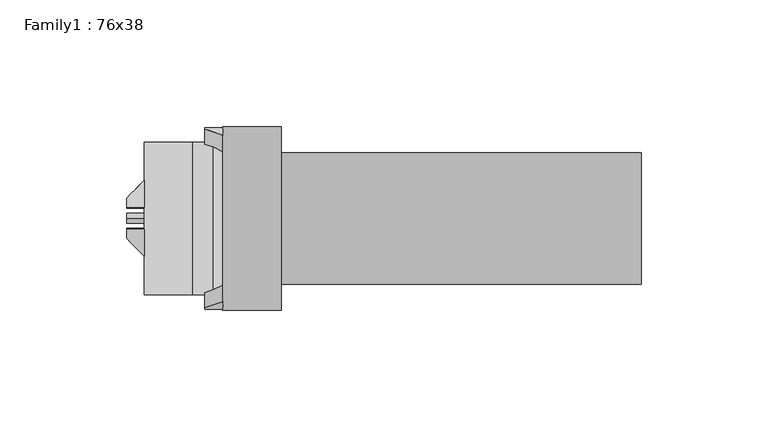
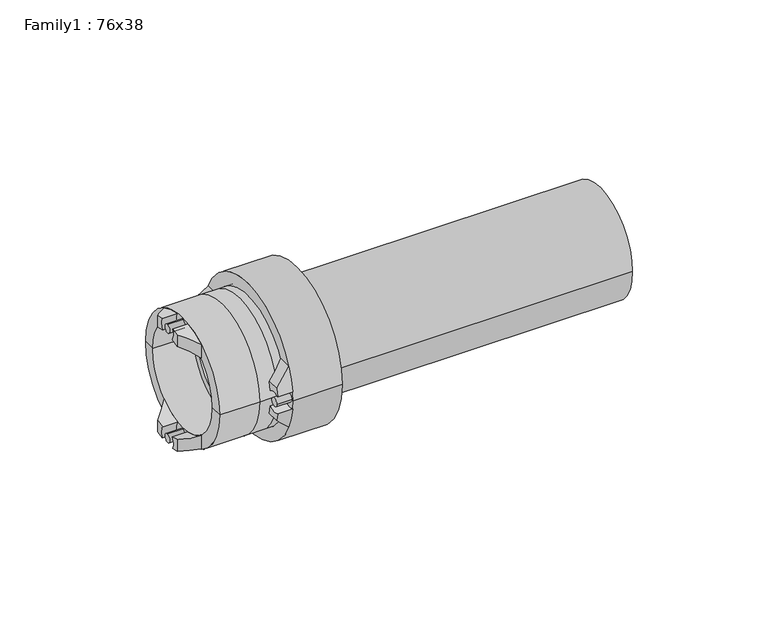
"""IFC4 building model written with IfcOpenShell, lengths in millimetres: proxy geometry, Family1 : 76x38."""

from ifc_helpers import new_model, si_unit, point, frame, frame_2d, origin, place, context, project, spatial, polyline, circle_curve, ellipse_curve, trimmed, segment, composite_curve, outline, extrude, source, transform, mapped, element, save
from ifc_brep_helpers import plane_surface, cylinder_surface, revolved_surface, advanced_brep


def family1_76x38_972b7e1c(model_context):
    return source(origin(), model_context, "Body", "SolidModel", [
        advanced_brep(
        [(-172.5, -30.1005263, 3.8834026), (-172.5, -35.9005263, 4.2396592), (-172.5, -35.2672497, 7.94), (-172.5, -29.2929838, 7.94), (-165.4, -32.8910702, 15.0), (-165.4, -35.9005263, 4.2396592), (-165.4, -30.1005263, 3.8834026), (-165.4, -26.3841335, 15.0)],
        [
            (0, 1, circle_curve(frame((-172.5, -33.25, 0.0), z_axis=(1.0, 0.0, 0.0), x_axis=(0.0, 1.0, 0.0)), 5.0)),
            (1, 2, circle_curve(frame((-172.5, 0.0, 0.0), z_axis=(-1.0, 0.0, 0.0), x_axis=(0.0, 1.0, 0.0)), 36.15)),
            (2, 3),
            (3, 0, circle_curve(frame((-172.5, 0.0, 0.0), z_axis=(1.0, 0.0, 0.0), x_axis=(0.0, 1.0, 0.0)), 30.35)),
            (4, 5, circle_curve(frame((-165.4, 0.0, 0.0), z_axis=(1.0, 0.0, 0.0), x_axis=(0.0, 1.0, 0.0)), 36.15)),
            (5, 6, circle_curve(frame((-165.4, -33.25, 0.0), z_axis=(-1.0, 0.0, 0.0), x_axis=(0.0, 1.0, 0.0)), 5.0)),
            (6, 7, circle_curve(frame((-165.4, 0.0, 0.0), z_axis=(-1.0, 0.0, 0.0), x_axis=(0.0, 1.0, 0.0)), 30.35)),
            (7, 4),
            (6, 0),
            (3, 7, ellipse_curve(frame((-180.4849858, 0.0, 0.0), z_axis=(-0.705106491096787, 0.0, 0.7091014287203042), x_axis=(0.7091014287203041, 0.0, 0.705106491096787)), 43.0431437, 30.35)),
            (4, 2, ellipse_curve(frame((-180.4849858, 0.0, 0.0), z_axis=(0.705106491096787, 0.0, -0.7091014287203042), x_axis=(-0.7091014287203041, 0.0, -0.705106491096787)), 51.2688515, 36.15)),
            (1, 5),
        ],
        [
            plane_surface(frame((-172.5, -32.8910702, 15.0), z_axis=(-1.0, 0.0, 0.0), x_axis=(0.0, 1.0, 0.0))),
            plane_surface(frame((-165.4, -32.8910702, 15.0), z_axis=(1.0, 0.0, 0.0), x_axis=(0.0, -1.0, 0.0))),
            revolved_surface(polyline([(-149.96303110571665, 30.35, 0.0), (-211.00694049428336, 30.35, 0.0)]), (-165.4, 0.0, 0.0), (1.0, 0.0, 0.0)),
            cylinder_surface(frame((-165.4, 0.0, 0.0), z_axis=(-1.0, 0.0, 0.0), x_axis=(0.0, 1.0, 0.0)), 36.15),
            revolved_surface(polyline([(-172.5, -28.25, 0.0), (-165.4, -28.25, 0.0)]), (-165.4, -33.25, 0.0), (-1.0, 0.0, 0.0)),
            plane_surface(frame((-165.4, 36.15, 15.0), z_axis=(-0.705106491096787, 0.0, 0.7091014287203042), x_axis=(0.0, -1.0, 0.0))),
        ],
        [
            (0, [[1, 2, 3, 4]]),
            (1, [[5, 6, 7, 8]]),
            (2, [[-7, 9, -4, 10]]),
            (3, [[-5, 11, -2, 12]]),
            (4, [[-1, -9, -6, -12]]),
            (5, [[-3, -11, -8, -10]]),
        ],
    ),
        advanced_brep(
        [(-172.5, -35.9005263, -4.2396592), (-172.5, -30.1005263, -3.8834026), (-172.5, -29.2929838, -7.94), (-172.5, -35.2672497, -7.94), (-165.4, -35.9005263, -4.2396592), (-165.4, -32.8910702, -15.0), (-165.4, -26.3841335, -15.0), (-165.4, -30.1005263, -3.8834026)],
        [
            (0, 1, circle_curve(frame((-172.5, -33.25, 0.0), z_axis=(1.0, 0.0, 0.0), x_axis=(0.0, 1.0, 0.0)), 5.0)),
            (1, 2, circle_curve(frame((-172.5, 0.0, 0.0), z_axis=(1.0, 0.0, 0.0), x_axis=(0.0, 1.0, 0.0)), 30.35)),
            (2, 3),
            (3, 0, circle_curve(frame((-172.5, 0.0, 0.0), z_axis=(-1.0, 0.0, 0.0), x_axis=(0.0, 1.0, 0.0)), 36.15)),
            (4, 5, circle_curve(frame((-165.4, 0.0, 0.0), z_axis=(1.0, 0.0, 0.0), x_axis=(0.0, 1.0, 0.0)), 36.15)),
            (5, 6),
            (6, 7, circle_curve(frame((-165.4, 0.0, 0.0), z_axis=(-1.0, 0.0, 0.0), x_axis=(0.0, 1.0, 0.0)), 30.35)),
            (7, 4, circle_curve(frame((-165.4, -33.25, 0.0), z_axis=(-1.0, 0.0, 0.0), x_axis=(0.0, 1.0, 0.0)), 5.0)),
            (6, 2, ellipse_curve(frame((-180.4849858, 0.0, 0.0), z_axis=(-0.7051064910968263, 0.0, -0.7091014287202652), x_axis=(0.7091014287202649, 0.0, -0.7051064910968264)), 43.0431437, 30.35)),
            (1, 7),
            (4, 0),
            (3, 5, ellipse_curve(frame((-180.4849858, 0.0, 0.0), z_axis=(0.7051064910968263, 0.0, 0.7091014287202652), x_axis=(-0.7091014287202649, 0.0, 0.7051064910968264)), 51.2688515, 36.15)),
        ],
        [
            plane_surface(frame((-172.5, -32.8910702, 15.0), z_axis=(-1.0, 0.0, 0.0), x_axis=(0.0, 1.0, 0.0))),
            plane_surface(frame((-165.4, -32.8910702, 15.0), z_axis=(1.0, 0.0, 0.0), x_axis=(0.0, -1.0, 0.0))),
            revolved_surface(polyline([(-149.96303110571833, 30.35, 0.0), (-211.00694049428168, 30.35, 0.0)]), (-165.4, 0.0, 0.0), (1.0, 0.0, 0.0)),
            cylinder_surface(frame((-165.4, 0.0, 0.0), z_axis=(-1.0, 0.0, 0.0), x_axis=(0.0, 1.0, 0.0)), 36.15),
            revolved_surface(polyline([(-172.5, -28.25, 0.0), (-165.4, -28.25, 0.0)]), (-165.4, -33.25, 0.0), (-1.0, 0.0, 0.0)),
            plane_surface(frame((-172.5, 36.15, -7.94), z_axis=(-0.7051064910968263, 0.0, -0.7091014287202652), x_axis=(0.0, -1.0, 0.0))),
        ],
        [
            (0, [[1, 2, 3, 4]]),
            (1, [[5, 6, 7, 8]]),
            (2, [[-7, 9, -2, 10]]),
            (3, [[-5, 11, -4, 12]]),
            (4, [[-1, -11, -8, -10]]),
            (5, [[-3, -9, -6, -12]]),
        ],
    ),
        advanced_brep(
        [(-172.5, 35.9005263, 4.2396592), (-172.5, 30.1005263, 3.8834026), (-172.5, 29.2929838, 7.94), (-172.5, 35.2672497, 7.94), (-165.4, 35.9005263, 4.2396592), (-165.4, 32.8910702, 15.0), (-165.4, 26.3841335, 15.0), (-165.4, 30.1005263, 3.8834026)],
        [
            (0, 1, circle_curve(frame((-172.5, 33.25, 0.0), z_axis=(1.0, 0.0, 0.0), x_axis=(0.0, 1.0, 0.0)), 5.0)),
            (1, 2, circle_curve(frame((-172.5, 0.0, 0.0), z_axis=(1.0, 0.0, 0.0), x_axis=(0.0, 1.0, 0.0)), 30.35)),
            (2, 3),
            (3, 0, circle_curve(frame((-172.5, 0.0, 0.0), z_axis=(-1.0, 0.0, 0.0), x_axis=(0.0, 1.0, 0.0)), 36.15)),
            (4, 5, circle_curve(frame((-165.4, 0.0, 0.0), z_axis=(1.0, 0.0, 0.0), x_axis=(0.0, 1.0, 0.0)), 36.15)),
            (5, 6),
            (6, 7, circle_curve(frame((-165.4, 0.0, 0.0), z_axis=(-1.0, 0.0, 0.0), x_axis=(0.0, 1.0, 0.0)), 30.35)),
            (7, 4, circle_curve(frame((-165.4, 33.25, 0.0), z_axis=(-1.0, 0.0, 0.0), x_axis=(0.0, 1.0, 0.0)), 5.0)),
            (6, 2, ellipse_curve(frame((-180.4849858, 0.0, 0.0), z_axis=(-0.705106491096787, 0.0, 0.7091014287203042), x_axis=(0.7091014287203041, 0.0, 0.705106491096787)), 43.0431437, 30.35)),
            (1, 7),
            (4, 0),
            (3, 5, ellipse_curve(frame((-180.4849858, 0.0, 0.0), z_axis=(0.705106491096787, 0.0, -0.7091014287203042), x_axis=(-0.7091014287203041, 0.0, -0.705106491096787)), 51.2688515, 36.15)),
        ],
        [
            plane_surface(frame((-172.5, -32.8910702, 15.0), z_axis=(-1.0, 0.0, 0.0), x_axis=(0.0, 1.0, 0.0))),
            plane_surface(frame((-165.4, -32.8910702, 15.0), z_axis=(1.0, 0.0, 0.0), x_axis=(0.0, -1.0, 0.0))),
            revolved_surface(polyline([(-149.96303110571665, 30.35, 0.0), (-211.00694049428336, 30.35, 0.0)]), (-165.4, 0.0, 0.0), (1.0, 0.0, 0.0)),
            cylinder_surface(frame((-165.4, 0.0, 0.0), z_axis=(-1.0, 0.0, 0.0), x_axis=(0.0, 1.0, 0.0)), 36.15),
            revolved_surface(polyline([(-172.5, 38.25, 0.0), (-165.4, 38.25, 0.0)]), (-165.4, 33.25, 0.0), (-1.0, 0.0, 0.0)),
            plane_surface(frame((-165.4, 36.15, 15.0), z_axis=(-0.705106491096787, 0.0, 0.7091014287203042), x_axis=(0.0, -1.0, 0.0))),
        ],
        [
            (0, [[1, 2, 3, 4]]),
            (1, [[5, 6, 7, 8]]),
            (2, [[-7, 9, -2, 10]]),
            (3, [[-5, 11, -4, 12]]),
            (4, [[-1, -11, -8, -10]]),
            (5, [[-3, -9, -6, -12]]),
        ],
    ),
        advanced_brep(
        [(-172.5, 30.1005263, -3.8834026), (-172.5, 35.9005263, -4.2396592), (-172.5, 35.2672497, -7.94), (-172.5, 29.2929838, -7.94), (-165.4, 32.8910702, -15.0), (-165.4, 35.9005263, -4.2396592), (-165.4, 30.1005263, -3.8834026), (-165.4, 26.3841335, -15.0)],
        [
            (0, 1, circle_curve(frame((-172.5, 33.25, 0.0), z_axis=(1.0, 0.0, 0.0), x_axis=(0.0, 1.0, 0.0)), 5.0)),
            (1, 2, circle_curve(frame((-172.5, 0.0, 0.0), z_axis=(-1.0, 0.0, 0.0), x_axis=(0.0, 1.0, 0.0)), 36.15)),
            (2, 3),
            (3, 0, circle_curve(frame((-172.5, 0.0, 0.0), z_axis=(1.0, 0.0, 0.0), x_axis=(0.0, 1.0, 0.0)), 30.35)),
            (4, 5, circle_curve(frame((-165.4, 0.0, 0.0), z_axis=(1.0, 0.0, 0.0), x_axis=(0.0, 1.0, 0.0)), 36.15)),
            (5, 6, circle_curve(frame((-165.4, 33.25, 0.0), z_axis=(-1.0, 0.0, 0.0), x_axis=(0.0, 1.0, 0.0)), 5.0)),
            (6, 7, circle_curve(frame((-165.4, 0.0, 0.0), z_axis=(-1.0, 0.0, 0.0), x_axis=(0.0, 1.0, 0.0)), 30.35)),
            (7, 4),
            (6, 0),
            (3, 7, ellipse_curve(frame((-180.4849858, 0.0, 0.0), z_axis=(-0.7051064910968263, 0.0, -0.7091014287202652), x_axis=(0.7091014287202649, 0.0, -0.7051064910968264)), 43.0431437, 30.35)),
            (4, 2, ellipse_curve(frame((-180.4849858, 0.0, 0.0), z_axis=(0.7051064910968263, 0.0, 0.7091014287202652), x_axis=(-0.7091014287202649, 0.0, 0.7051064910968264)), 51.2688515, 36.15)),
            (1, 5),
        ],
        [
            plane_surface(frame((-172.5, -32.8910702, 15.0), z_axis=(-1.0, 0.0, 0.0), x_axis=(0.0, 1.0, 0.0))),
            plane_surface(frame((-165.4, -32.8910702, 15.0), z_axis=(1.0, 0.0, 0.0), x_axis=(0.0, -1.0, 0.0))),
            revolved_surface(polyline([(-149.96303110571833, 30.35, 0.0), (-211.00694049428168, 30.35, 0.0)]), (-165.4, 0.0, 0.0), (1.0, 0.0, 0.0)),
            cylinder_surface(frame((-165.4, 0.0, 0.0), z_axis=(-1.0, 0.0, 0.0), x_axis=(0.0, 1.0, 0.0)), 36.15),
            revolved_surface(polyline([(-172.5, 38.25, 0.0), (-165.4, 38.25, 0.0)]), (-165.4, 33.25, 0.0), (-1.0, 0.0, 0.0)),
            plane_surface(frame((-172.5, 36.15, -7.94), z_axis=(-0.7051064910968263, 0.0, -0.7091014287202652), x_axis=(0.0, -1.0, 0.0))),
        ],
        [
            (0, [[1, 2, 3, 4]]),
            (1, [[5, 6, 7, 8]]),
            (2, [[-7, 9, -4, 10]]),
            (3, [[-5, 11, -2, 12]]),
            (4, [[-1, -9, -6, -12]]),
            (5, [[-3, -11, -8, -10]]),
        ],
    ),
        extrude(outline(composite_curve([segment(trimmed(circle_curve(frame_2d((-33.25, 0.0)), 2.0), [point((-35.25, 0.0))], [point((-31.25, 0.0))], False, "CARTESIAN"), True, "CONTINUOUS"), segment(trimmed(circle_curve(frame_2d((-33.25, 0.0)), 2.0), [point((-31.25, 0.0))], [point((-35.25, 0.0))], False, "CARTESIAN"), True, "CONTINUOUS")], self_intersect=False)), frame((-172.5, 0.0, 0.0), z_axis=(1.0, 0.0, 0.0), x_axis=(0.0, 1.0, 0.0)), (0.0, 0.0, 1.0), 7.1),
        extrude(outline(composite_curve([segment(trimmed(circle_curve(frame_2d((33.25, 0.0)), 2.0), [point((31.25, 0.0))], [point((35.25, 0.0))], False, "CARTESIAN"), True, "CONTINUOUS"), segment(trimmed(circle_curve(frame_2d((33.25, 0.0)), 2.0), [point((35.25, 0.0))], [point((31.25, 0.0))], False, "CARTESIAN"), True, "CONTINUOUS")], self_intersect=False)), frame((-172.5, 0.0, 0.0), z_axis=(1.0, 0.0, 0.0), x_axis=(0.0, 1.0, 0.0)), (0.0, 0.0, 1.0), 7.1),
        advanced_brep(
        [(-146.1, -26.0, 0.0), (-146.1, 26.0, 0.0), (-146.1, 30.2, 0.0), (-146.1, -30.2, 0.0), (-142.4, -26.0, 0.0), (-142.4, 26.0, 0.0), (-142.4, -36.3, 0.0), (-142.4, 36.3, 0.0), (-165.4, -36.3, 0.0), (-165.4, 36.3, 0.0), (-165.4, -30.2, 0.0), (-165.4, 30.2, 0.0)],
        [
            (0, 1, circle_curve(frame((-146.1, 0.0, 0.0), z_axis=(1.0, 0.0, 0.0), x_axis=(0.0, 1.0, 0.0)), 26.0)),
            (1, 2),
            (2, 3, circle_curve(frame((-146.1, 0.0, 0.0), z_axis=(-1.0, 0.0, 0.0), x_axis=(0.0, 1.0, 0.0)), 30.2)),
            (3, 0),
            (1, 0, circle_curve(frame((-146.1, 0.0, 0.0), z_axis=(1.0, 0.0, 0.0), x_axis=(0.0, 1.0, 0.0)), 26.0)),
            (3, 2, circle_curve(frame((-146.1, 0.0, 0.0), z_axis=(-1.0, 0.0, 0.0), x_axis=(0.0, 1.0, 0.0)), 30.2)),
            (4, 5, circle_curve(frame((-142.4, 0.0, 0.0), z_axis=(1.0, 0.0, 0.0), x_axis=(0.0, 1.0, 0.0)), 26.0)),
            (5, 1),
            (0, 4),
            (5, 4, circle_curve(frame((-142.4, 0.0, 0.0), z_axis=(1.0, 0.0, 0.0), x_axis=(0.0, 1.0, 0.0)), 26.0)),
            (6, 7, circle_curve(frame((-142.4, 0.0, 0.0), z_axis=(1.0, 0.0, 0.0), x_axis=(0.0, 1.0, 0.0)), 36.3)),
            (7, 5),
            (4, 6),
            (7, 6, circle_curve(frame((-142.4, 0.0, 0.0), z_axis=(1.0, 0.0, 0.0), x_axis=(0.0, 1.0, 0.0)), 36.3)),
            (8, 9, circle_curve(frame((-165.4, 0.0, 0.0), z_axis=(1.0, 0.0, 0.0), x_axis=(0.0, 1.0, 0.0)), 36.3)),
            (9, 7),
            (6, 8),
            (9, 8, circle_curve(frame((-165.4, 0.0, 0.0), z_axis=(1.0, 0.0, 0.0), x_axis=(0.0, 1.0, 0.0)), 36.3)),
            (10, 11, circle_curve(frame((-165.4, 0.0, 0.0), z_axis=(1.0, 0.0, 0.0), x_axis=(0.0, 1.0, 0.0)), 30.2)),
            (11, 9),
            (8, 10),
            (11, 10, circle_curve(frame((-165.4, 0.0, 0.0), z_axis=(1.0, 0.0, 0.0), x_axis=(0.0, 1.0, 0.0)), 30.2)),
            (2, 11),
            (10, 3),
        ],
        [
            plane_surface(frame((-146.1, 0.0, 0.0), z_axis=(-1.0, 0.0, 0.0), x_axis=(0.0, 1.0, 0.0))),
            revolved_surface(polyline([(-146.0999999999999, 26.0, 0.0), (-142.4000000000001, 26.0, 0.0)]), (-2679.3826241, 0.0, 0.0), (-1.0, 0.0, 0.0)),
            plane_surface(frame((-142.4, 0.0, 0.0), z_axis=(1.0, 0.0, 0.0), x_axis=(0.0, 1.0, 0.0))),
            cylinder_surface(frame((-2679.3826241, 0.0, 0.0), z_axis=(-1.0, 0.0, 0.0), x_axis=(0.0, 1.0, 0.0)), 36.3),
            plane_surface(frame((-165.4, 0.0, 0.0), z_axis=(-1.0, 0.0, 0.0), x_axis=(0.0, 1.0, 0.0))),
            revolved_surface(polyline([(-165.4000000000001, 30.2, 0.0), (-146.0999999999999, 30.2, 0.0)]), (-2679.3826241, 0.0, 0.0), (-1.0, 0.0, 0.0)),
        ],
        [
            (0, [[1, 2, 3, 4]]),
            (0, [[5, -4, 6, -2]]),
            (1, [[7, 8, -1, 9]]),
            (1, [[10, -9, -5, -8]]),
            (2, [[11, 12, -7, 13]]),
            (2, [[14, -13, -10, -12]]),
            (3, [[15, 16, -11, 17]]),
            (3, [[18, -17, -14, -16]]),
            (4, [[19, 20, -15, 21]]),
            (4, [[22, -21, -18, -20]]),
            (5, [[-3, 23, -19, 24]]),
            (5, [[-6, -24, -22, -23]]),
        ],
    ),
        advanced_brep(
        [(-203.5, 3.9287577, 24.1322888), (-203.5, 4.3545071, 29.6822888), (-203.5, 7.94, 28.9301988), (-203.5, 7.94, 23.1248546), (-196.4, 15.0, 25.9807621), (-196.4, 4.3545071, 29.6822888), (-196.4, 3.9287577, 24.1322888), (-196.4, 15.0, 19.3080942)],
        [
            (0, 1, circle_curve(frame((-203.5, 0.0, 27.225), z_axis=(1.0, 0.0, 0.0), x_axis=(0.0, 0.0, -1.0)), 5.0)),
            (1, 2, circle_curve(frame((-203.5, 0.0, 0.0), z_axis=(-1.0, 0.0, 0.0), x_axis=(0.0, 0.0, -1.0)), 30.0)),
            (2, 3),
            (3, 0, circle_curve(frame((-203.5, 0.0, 0.0), z_axis=(1.0, 0.0, 0.0), x_axis=(0.0, 0.0, -1.0)), 24.45)),
            (4, 5, circle_curve(frame((-196.4, 0.0, 0.0), z_axis=(1.0, 0.0, 0.0), x_axis=(0.0, 0.0, -1.0)), 30.0)),
            (5, 6, circle_curve(frame((-196.4, 0.0, 27.225), z_axis=(-1.0, 0.0, 0.0), x_axis=(0.0, 0.0, -1.0)), 5.0)),
            (6, 7, circle_curve(frame((-196.4, 0.0, 0.0), z_axis=(-1.0, 0.0, 0.0), x_axis=(0.0, 0.0, -1.0)), 24.45)),
            (7, 4),
            (6, 0),
            (3, 7, ellipse_curve(frame((-211.4849858, 0.0, 0.0), z_axis=(-0.7051064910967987, 0.7091014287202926, 0.0), x_axis=(0.7091014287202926, 0.7051064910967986, 0.0)), 34.6756133, 24.45)),
            (4, 2, ellipse_curve(frame((-211.4849858, 0.0, 0.0), z_axis=(0.7051064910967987, -0.7091014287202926, 0.0), x_axis=(-0.7091014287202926, -0.7051064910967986, 0.0)), 42.5467647, 30.0)),
            (1, 5),
        ],
        [
            plane_surface(frame((-203.5, 15.0, 25.9807621), z_axis=(-1.0, 0.0, 0.0), x_axis=(0.0, 0.0, -1.0))),
            plane_surface(frame((-196.4, 15.0, 25.9807621), z_axis=(1.0, 0.0, 0.0), x_axis=(0.0, 0.0, 1.0))),
            revolved_surface(polyline([(-186.89645886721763, 0.0, -24.45), (-236.0735127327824, 0.0, -24.45)]), (-196.4, 0.0, 0.0), (1.0000000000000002, 0.0, 0.0)),
            cylinder_surface(frame((-196.4, 0.0, 0.0), z_axis=(-1.0000000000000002, 0.0, 0.0), x_axis=(0.0, 0.0, -1.0)), 30.0),
            revolved_surface(polyline([(-203.5, 0.0, 22.225), (-196.4, 0.0, 22.225)]), (-196.4, 0.0, 27.225), (-1.0000000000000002, 0.0, 0.0)),
            plane_surface(frame((-196.4, 15.0, -30.0), z_axis=(-0.7051064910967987, 0.7091014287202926, 0.0), x_axis=(0.0, 0.0, 1.0))),
        ],
        [
            (0, [[1, 2, 3, 4]]),
            (1, [[5, 6, 7, 8]]),
            (2, [[-7, 9, -4, 10]]),
            (3, [[-5, 11, -2, 12]]),
            (4, [[-1, -9, -6, -12]]),
            (5, [[-3, -11, -8, -10]]),
        ],
    ),
        advanced_brep(
        [(-203.5, -4.3545071, 29.6822888), (-203.5, -3.9287577, 24.1322888), (-203.5, -7.94, 23.1248546), (-203.5, -7.94, 28.9301988), (-196.4, -4.3545071, 29.6822888), (-196.4, -15.0, 25.9807621), (-196.4, -15.0, 19.3080942), (-196.4, -3.9287577, 24.1322888)],
        [
            (0, 1, circle_curve(frame((-203.5, 0.0, 27.225), z_axis=(1.0, 0.0, 0.0), x_axis=(0.0, 0.0, -1.0)), 5.0)),
            (1, 2, circle_curve(frame((-203.5, 0.0, 0.0), z_axis=(1.0, 0.0, 0.0), x_axis=(0.0, 0.0, -1.0)), 24.45)),
            (2, 3),
            (3, 0, circle_curve(frame((-203.5, 0.0, 0.0), z_axis=(-1.0, 0.0, 0.0), x_axis=(0.0, 0.0, -1.0)), 30.0)),
            (4, 5, circle_curve(frame((-196.4, 0.0, 0.0), z_axis=(1.0, 0.0, 0.0), x_axis=(0.0, 0.0, -1.0)), 30.0)),
            (5, 6),
            (6, 7, circle_curve(frame((-196.4, 0.0, 0.0), z_axis=(-1.0, 0.0, 0.0), x_axis=(0.0, 0.0, -1.0)), 24.45)),
            (7, 4, circle_curve(frame((-196.4, 0.0, 27.225), z_axis=(-1.0, 0.0, 0.0), x_axis=(0.0, 0.0, -1.0)), 5.0)),
            (6, 2, ellipse_curve(frame((-211.4849858, 0.0, 0.0), z_axis=(-0.7051064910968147, -0.7091014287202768, 0.0), x_axis=(0.7091014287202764, -0.7051064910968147, 0.0)), 34.6756133, 24.45)),
            (1, 7),
            (4, 0),
            (3, 5, ellipse_curve(frame((-211.4849858, 0.0, 0.0), z_axis=(0.7051064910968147, 0.7091014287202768, 0.0), x_axis=(-0.7091014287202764, 0.7051064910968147, 0.0)), 42.5467647, 30.0)),
        ],
        [
            plane_surface(frame((-203.5, 15.0, 25.9807621), z_axis=(-1.0, 0.0, 0.0), x_axis=(0.0, 0.0, -1.0))),
            plane_surface(frame((-196.4, 15.0, 25.9807621), z_axis=(1.0, 0.0, 0.0), x_axis=(0.0, 0.0, 1.0))),
            revolved_surface(polyline([(-186.89645886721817, 0.0, -24.45), (-236.07351273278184, 0.0, -24.45)]), (-196.4, 0.0, 0.0), (1.0000000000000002, 0.0, 0.0)),
            cylinder_surface(frame((-196.4, 0.0, 0.0), z_axis=(-1.0000000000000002, 0.0, 0.0), x_axis=(0.0, 0.0, -1.0)), 30.0),
            revolved_surface(polyline([(-203.5, 0.0, 22.225), (-196.4, 0.0, 22.225)]), (-196.4, 0.0, 27.225), (-1.0000000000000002, 0.0, 0.0)),
            plane_surface(frame((-203.5, -7.94, -30.0), z_axis=(-0.7051064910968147, -0.7091014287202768, 0.0), x_axis=(0.0, 0.0, 1.0))),
        ],
        [
            (0, [[1, 2, 3, 4]]),
            (1, [[5, 6, 7, 8]]),
            (2, [[-7, 9, -2, 10]]),
            (3, [[-5, 11, -4, 12]]),
            (4, [[-1, -11, -8, -10]]),
            (5, [[-3, -9, -6, -12]]),
        ],
    ),
        advanced_brep(
        [(-203.5, 4.3545071, -29.6822888), (-203.5, 3.9287577, -24.1322888), (-203.5, 7.94, -23.1248546), (-203.5, 7.94, -28.9301988), (-196.4, 4.3545071, -29.6822888), (-196.4, 15.0, -25.9807621), (-196.4, 15.0, -19.3080942), (-196.4, 3.9287577, -24.1322888)],
        [
            (0, 1, circle_curve(frame((-203.5, 0.0, -27.225), z_axis=(1.0, 0.0, 0.0), x_axis=(0.0, 0.0, -1.0)), 5.0)),
            (1, 2, circle_curve(frame((-203.5, 0.0, 0.0), z_axis=(1.0, 0.0, 0.0), x_axis=(0.0, 0.0, -1.0)), 24.45)),
            (2, 3),
            (3, 0, circle_curve(frame((-203.5, 0.0, 0.0), z_axis=(-1.0, 0.0, 0.0), x_axis=(0.0, 0.0, -1.0)), 30.0)),
            (4, 5, circle_curve(frame((-196.4, 0.0, 0.0), z_axis=(1.0, 0.0, 0.0), x_axis=(0.0, 0.0, -1.0)), 30.0)),
            (5, 6),
            (6, 7, circle_curve(frame((-196.4, 0.0, 0.0), z_axis=(-1.0, 0.0, 0.0), x_axis=(0.0, 0.0, -1.0)), 24.45)),
            (7, 4, circle_curve(frame((-196.4, 0.0, -27.225), z_axis=(-1.0, 0.0, 0.0), x_axis=(0.0, 0.0, -1.0)), 5.0)),
            (6, 2, ellipse_curve(frame((-211.4849858, 0.0, 0.0), z_axis=(-0.7051064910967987, 0.7091014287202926, 0.0), x_axis=(0.7091014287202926, 0.7051064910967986, 0.0)), 34.6756133, 24.45)),
            (1, 7),
            (4, 0),
            (3, 5, ellipse_curve(frame((-211.4849858, 0.0, 0.0), z_axis=(0.7051064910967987, -0.7091014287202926, 0.0), x_axis=(-0.7091014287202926, -0.7051064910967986, 0.0)), 42.5467647, 30.0)),
        ],
        [
            plane_surface(frame((-203.5, 15.0, 25.9807621), z_axis=(-1.0, 0.0, 0.0), x_axis=(0.0, 0.0, -1.0))),
            plane_surface(frame((-196.4, 15.0, 25.9807621), z_axis=(1.0, 0.0, 0.0), x_axis=(0.0, 0.0, 1.0))),
            revolved_surface(polyline([(-186.89645886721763, 0.0, -24.45), (-236.0735127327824, 0.0, -24.45)]), (-196.4, 0.0, 0.0), (1.0000000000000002, 0.0, 0.0)),
            cylinder_surface(frame((-196.4, 0.0, 0.0), z_axis=(-1.0000000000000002, 0.0, 0.0), x_axis=(0.0, 0.0, -1.0)), 30.0),
            revolved_surface(polyline([(-203.5, 0.0, -32.225), (-196.4, 0.0, -32.225)]), (-196.4, 0.0, -27.225), (-1.0000000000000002, 0.0, 0.0)),
            plane_surface(frame((-196.4, 15.0, -30.0), z_axis=(-0.7051064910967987, 0.7091014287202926, 0.0), x_axis=(0.0, 0.0, 1.0))),
        ],
        [
            (0, [[1, 2, 3, 4]]),
            (1, [[5, 6, 7, 8]]),
            (2, [[-7, 9, -2, 10]]),
            (3, [[-5, 11, -4, 12]]),
            (4, [[-1, -11, -8, -10]]),
            (5, [[-3, -9, -6, -12]]),
        ],
    ),
        advanced_brep(
        [(-203.5, -3.9287577, -24.1322888), (-203.5, -4.3545071, -29.6822888), (-203.5, -7.94, -28.9301988), (-203.5, -7.94, -23.1248546), (-196.4, -15.0, -25.9807621), (-196.4, -4.3545071, -29.6822888), (-196.4, -3.9287577, -24.1322888), (-196.4, -15.0, -19.3080942)],
        [
            (0, 1, circle_curve(frame((-203.5, 0.0, -27.225), z_axis=(1.0, 0.0, 0.0), x_axis=(0.0, 0.0, -1.0)), 5.0)),
            (1, 2, circle_curve(frame((-203.5, 0.0, 0.0), z_axis=(-1.0, 0.0, 0.0), x_axis=(0.0, 0.0, -1.0)), 30.0)),
            (2, 3),
            (3, 0, circle_curve(frame((-203.5, 0.0, 0.0), z_axis=(1.0, 0.0, 0.0), x_axis=(0.0, 0.0, -1.0)), 24.45)),
            (4, 5, circle_curve(frame((-196.4, 0.0, 0.0), z_axis=(1.0, 0.0, 0.0), x_axis=(0.0, 0.0, -1.0)), 30.0)),
            (5, 6, circle_curve(frame((-196.4, 0.0, -27.225), z_axis=(-1.0, 0.0, 0.0), x_axis=(0.0, 0.0, -1.0)), 5.0)),
            (6, 7, circle_curve(frame((-196.4, 0.0, 0.0), z_axis=(-1.0, 0.0, 0.0), x_axis=(0.0, 0.0, -1.0)), 24.45)),
            (7, 4),
            (6, 0),
            (3, 7, ellipse_curve(frame((-211.4849858, 0.0, 0.0), z_axis=(-0.7051064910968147, -0.7091014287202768, 0.0), x_axis=(0.7091014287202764, -0.7051064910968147, 0.0)), 34.6756133, 24.45)),
            (4, 2, ellipse_curve(frame((-211.4849858, 0.0, 0.0), z_axis=(0.7051064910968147, 0.7091014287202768, 0.0), x_axis=(-0.7091014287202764, 0.7051064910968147, 0.0)), 42.5467647, 30.0)),
            (1, 5),
        ],
        [
            plane_surface(frame((-203.5, 15.0, 25.9807621), z_axis=(-1.0, 0.0, 0.0), x_axis=(0.0, 0.0, -1.0))),
            plane_surface(frame((-196.4, 15.0, 25.9807621), z_axis=(1.0, 0.0, 0.0), x_axis=(0.0, 0.0, 1.0))),
            revolved_surface(polyline([(-186.89645886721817, 0.0, -24.45), (-236.07351273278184, 0.0, -24.45)]), (-196.4, 0.0, 0.0), (1.0000000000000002, 0.0, 0.0)),
            cylinder_surface(frame((-196.4, 0.0, 0.0), z_axis=(-1.0000000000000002, 0.0, 0.0), x_axis=(0.0, 0.0, -1.0)), 30.0),
            revolved_surface(polyline([(-203.5, 0.0, -32.225), (-196.4, 0.0, -32.225)]), (-196.4, 0.0, -27.225), (-1.0000000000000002, 0.0, 0.0)),
            plane_surface(frame((-203.5, -7.94, -30.0), z_axis=(-0.7051064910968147, -0.7091014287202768, 0.0), x_axis=(0.0, 0.0, 1.0))),
        ],
        [
            (0, [[1, 2, 3, 4]]),
            (1, [[5, 6, 7, 8]]),
            (2, [[-7, 9, -4, 10]]),
            (3, [[-5, 11, -2, 12]]),
            (4, [[-1, -9, -6, -12]]),
            (5, [[-3, -11, -8, -10]]),
        ],
    ),
        extrude(outline(composite_curve([segment(trimmed(circle_curve(frame_2d((0.0, 27.225)), 2.0), [point((0.0, 29.225))], [point((0.0, 25.225))], False, "CARTESIAN"), True, "CONTINUOUS"), segment(trimmed(circle_curve(frame_2d((0.0, 27.225)), 2.0), [point((0.0, 25.225))], [point((0.0, 29.225))], False, "CARTESIAN"), True, "CONTINUOUS")], self_intersect=False)), frame((-203.5, 0.0, 0.0), z_axis=(1.0, 0.0, 0.0), x_axis=(0.0, 1.0, 0.0)), (0.0, 0.0, 1.0), 7.1),
        extrude(outline(composite_curve([segment(trimmed(circle_curve(frame_2d((0.0, -27.225)), 2.0), [point((0.0, -25.225))], [point((0.0, -29.225))], False, "CARTESIAN"), True, "CONTINUOUS"), segment(trimmed(circle_curve(frame_2d((0.0, -27.225)), 2.0), [point((0.0, -29.225))], [point((0.0, -25.225))], False, "CARTESIAN"), True, "CONTINUOUS")], self_intersect=False)), frame((-203.5, 0.0, 0.0), z_axis=(1.0, 0.0, 0.0), x_axis=(0.0, 1.0, 0.0)), (0.0, 0.0, 1.0), 7.1),
        advanced_brep(
        [(-169.4, 30.15, 0.0), (-169.4, -30.15, 0.0), (-177.4, -30.15, 0.0), (-177.4, 30.15, 0.0), (-146.1, 30.15, 0.0), (-146.1, -30.15, 0.0), (-146.1, 26.0, 0.0), (-146.1, -26.0, 0.0), (-164.6, 26.0, 0.0), (-164.6, -26.0, 0.0), (-196.4, 24.3, 0.0), (-196.4, -24.3, 0.0), (-177.4, -24.3, 0.0), (-177.4, 24.3, 0.0), (-196.4, 30.15, 0.0), (-196.4, -30.15, 0.0), (-172.6, 20.5, 0.0), (-172.6, -20.5, 0.0), (-177.4, 20.5, 0.0), (-177.4, -20.5, 0.0)],
        [
            (0, 1, circle_curve(frame((-169.4, 0.0, 0.0), z_axis=(-1.0, 0.0, 0.0), x_axis=(0.0, -1.0000000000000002, 0.0)), 30.15)),
            (1, 2),
            (2, 3, circle_curve(frame((-177.4, 0.0, 0.0), z_axis=(1.0, 0.0, 0.0), x_axis=(0.0, -1.0000000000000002, 0.0)), 30.15)),
            (3, 0),
            (1, 0, circle_curve(frame((-169.4, 0.0, 0.0), z_axis=(-1.0, 0.0, 0.0), x_axis=(0.0, -1.0000000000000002, 0.0)), 30.15)),
            (3, 2, circle_curve(frame((-177.4, 0.0, 0.0), z_axis=(1.0, 0.0, 0.0), x_axis=(0.0, -1.0000000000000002, 0.0)), 30.15)),
            (4, 5, circle_curve(frame((-146.1, 0.0, 0.0), z_axis=(-1.0, 0.0, 0.0), x_axis=(0.0, -1.0000000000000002, 0.0)), 30.15)),
            (5, 1),
            (0, 4),
            (5, 4, circle_curve(frame((-146.1, 0.0, 0.0), z_axis=(-1.0, 0.0, 0.0), x_axis=(0.0, -1.0000000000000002, 0.0)), 30.15)),
            (6, 7, circle_curve(frame((-146.1, 0.0, 0.0), z_axis=(-1.0, 0.0, 0.0), x_axis=(0.0, -1.0000000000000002, 0.0)), 26.0)),
            (7, 5),
            (4, 6),
            (7, 6, circle_curve(frame((-146.1, 0.0, 0.0), z_axis=(-1.0, 0.0, 0.0), x_axis=(0.0, -1.0000000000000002, 0.0)), 26.0)),
            (8, 9, circle_curve(frame((-164.6, 0.0, 0.0), z_axis=(-1.0, 0.0, 0.0), x_axis=(0.0, -1.0000000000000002, 0.0)), 26.0)),
            (9, 7),
            (6, 8),
            (9, 8, circle_curve(frame((-164.6, 0.0, 0.0), z_axis=(-1.0, 0.0, 0.0), x_axis=(0.0, -1.0000000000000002, 0.0)), 26.0)),
            (10, 11, circle_curve(frame((-196.4, 0.0, 0.0), z_axis=(-1.0, 0.0, 0.0), x_axis=(0.0, -1.0000000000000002, 0.0)), 24.3)),
            (11, 12),
            (12, 13, circle_curve(frame((-177.4, 0.0, 0.0), z_axis=(1.0, 0.0, 0.0), x_axis=(0.0, -1.0000000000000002, 0.0)), 24.3)),
            (13, 10),
            (11, 10, circle_curve(frame((-196.4, 0.0, 0.0), z_axis=(-1.0, 0.0, 0.0), x_axis=(0.0, -1.0000000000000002, 0.0)), 24.3)),
            (13, 12, circle_curve(frame((-177.4, 0.0, 0.0), z_axis=(1.0, 0.0, 0.0), x_axis=(0.0, -1.0000000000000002, 0.0)), 24.3)),
            (14, 15, circle_curve(frame((-196.4, 0.0, 0.0), z_axis=(-1.0, 0.0, 0.0), x_axis=(0.0, -1.0000000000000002, 0.0)), 30.15)),
            (15, 11),
            (10, 14),
            (15, 14, circle_curve(frame((-196.4, 0.0, 0.0), z_axis=(-1.0, 0.0, 0.0), x_axis=(0.0, -1.0000000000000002, 0.0)), 30.15)),
            (2, 15),
            (14, 3),
            (16, 17, circle_curve(frame((-172.6, 0.0, 0.0), z_axis=(-1.0, 0.0, 0.0), x_axis=(0.0, -1.0000000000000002, 0.0)), 20.5)),
            (17, 9),
            (8, 16),
            (17, 16, circle_curve(frame((-172.6, 0.0, 0.0), z_axis=(-1.0, 0.0, 0.0), x_axis=(0.0, -1.0000000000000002, 0.0)), 20.5)),
            (18, 19, circle_curve(frame((-177.4, 0.0, 0.0), z_axis=(-1.0, 0.0, 0.0), x_axis=(0.0, -1.0000000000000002, 0.0)), 20.5)),
            (19, 17),
            (16, 18),
            (19, 18, circle_curve(frame((-177.4, 0.0, 0.0), z_axis=(-1.0, 0.0, 0.0), x_axis=(0.0, -1.0000000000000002, 0.0)), 20.5)),
            (12, 19),
            (18, 13),
        ],
        [
            cylinder_surface(frame((-1725.9018184, 0.0, 0.0), z_axis=(1.0000000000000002, 0.0, 0.0), x_axis=(0.0, -1.0000000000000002, 0.0)), 30.15),
            plane_surface(frame((-146.1, 0.0, 0.0), z_axis=(1.0, 0.0, 0.0), x_axis=(0.0, -1.0, 0.0))),
            revolved_surface(polyline([(-146.099999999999, -26.000000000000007, 0.0), (-164.599999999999, -26.000000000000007, 0.0)]), (-1725.9018184, 0.0, 0.0), (1.0000000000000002, 0.0, 0.0)),
            revolved_surface(polyline([(-177.39999999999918, -24.300000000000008, 0.0), (-196.39999999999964, -24.300000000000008, 0.0)]), (-1725.9018184, 0.0, 0.0), (1.0000000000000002, 0.0, 0.0)),
            plane_surface(frame((-196.4, 0.0, 0.0), z_axis=(-1.0, 0.0, 0.0), x_axis=(0.0, -1.0, 0.0))),
            revolved_surface(polyline([(-164.6, -26.0, 0.0), (-172.6, -20.5, 0.0)]), (-1725.9018184, 0.0, 0.0), (1.0000000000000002, 0.0, 0.0)),
            revolved_surface(polyline([(-172.599999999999, -20.500000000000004, 0.0), (-177.39999999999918, -20.500000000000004, 0.0)]), (-1725.9018184, 0.0, 0.0), (1.0000000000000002, 0.0, 0.0)),
            plane_surface(frame((-177.4, 0.0, 0.0), z_axis=(-1.0, 0.0, 0.0), x_axis=(0.0, -1.0, 0.0))),
        ],
        [
            (0, [[1, 2, 3, 4]]),
            (0, [[5, -4, 6, -2]]),
            (0, [[7, 8, -1, 9]]),
            (0, [[10, -9, -5, -8]]),
            (1, [[11, 12, -7, 13]]),
            (1, [[14, -13, -10, -12]]),
            (2, [[15, 16, -11, 17]]),
            (2, [[18, -17, -14, -16]]),
            (3, [[19, 20, 21, 22]]),
            (3, [[23, -22, 24, -20]]),
            (4, [[25, 26, -19, 27]]),
            (4, [[28, -27, -23, -26]]),
            (0, [[-3, 29, -25, 30]]),
            (0, [[-6, -30, -28, -29]]),
            (5, [[31, 32, -15, 33]]),
            (5, [[34, -33, -18, -32]]),
            (6, [[35, 36, -31, 37]]),
            (6, [[38, -37, -34, -36]]),
            (7, [[-21, 39, -35, 40]]),
            (7, [[-24, -40, -38, -39]]),
        ],
    ),
        advanced_brep(
        [(0.0, -26.0, 0.0), (0.0, 26.0, 0.0), (0.0, 0.0, 0.0), (-146.1, -26.0, 0.0), (-146.1, 26.0, 0.0), (-146.1, 0.0, 0.0)],
        [
            (0, 1, circle_curve(frame((0.0, 0.0, 0.0), z_axis=(1.0, 0.0, 0.0), x_axis=(0.0, 1.0, 0.0)), 26.0)),
            (1, 2),
            (2, 0),
            (1, 0, circle_curve(frame((0.0, 0.0, 0.0), z_axis=(1.0, 0.0, 0.0), x_axis=(0.0, 1.0, 0.0)), 26.0)),
            (3, 4, circle_curve(frame((-146.1, 0.0, 0.0), z_axis=(1.0, 0.0, 0.0), x_axis=(0.0, 1.0, 0.0)), 26.0)),
            (4, 1),
            (0, 3),
            (4, 3, circle_curve(frame((-146.1, 0.0, 0.0), z_axis=(1.0, 0.0, 0.0), x_axis=(0.0, 1.0, 0.0)), 26.0)),
            (5, 4),
            (3, 5),
        ],
        [
            plane_surface(frame((0.0, 0.0, 0.0), z_axis=(1.0, 0.0, 0.0), x_axis=(0.0, 1.0, 0.0))),
            cylinder_surface(frame((25.0, 0.0, 0.0), z_axis=(-1.0, 0.0, 0.0), x_axis=(0.0, 1.0, 0.0)), 26.0),
            plane_surface(frame((-146.1, 0.0, 0.0), z_axis=(-1.0, 0.0, 0.0), x_axis=(0.0, 1.0, 0.0))),
        ],
        [
            (0, [[1, 2, 3]]),
            (0, [[4, -3, -2]]),
            (1, [[5, 6, -1, 7]]),
            (1, [[8, -7, -4, -6]]),
            (2, [[9, -5, 10]]),
            (2, [[-10, -8, -9]]),
        ],
    ),
    ])


if __name__ == "__main__":
    model = new_model("IFC4")
    model_context = context("Model", 3, world=origin())
    ifc_project = project(units=[si_unit("LENGTHUNIT", "METRE", prefix="MILLI")], contexts=[model_context])
    site = spatial("IfcSite", under=ifc_project)
    building = spatial("IfcBuilding", under=site)
    placement = place(None, origin())
    family1_76x38_shape = family1_76x38_972b7e1c(model_context)
    element("IfcBuildingElementProxy", 1, Name="Family1 : 76x38", ObjectType="Family1 : 76x38", at=placement, inside=building, context=model_context, shape_type="MappedRepresentation", body=[
        mapped(family1_76x38_shape, transform((0.0, 0.0, 0.0), x_axis=(1.0, 0.0, 0.0), y_axis=(0.0, 1.0, 0.0), z_axis=(0.0, 0.0, 1.0))),
    ])
    save(model, "model.ifc")
